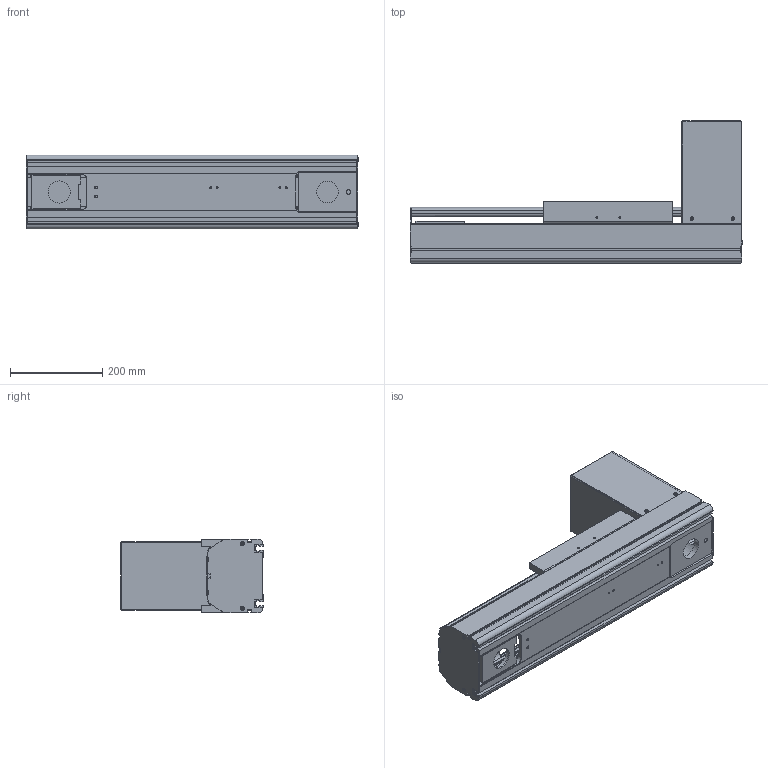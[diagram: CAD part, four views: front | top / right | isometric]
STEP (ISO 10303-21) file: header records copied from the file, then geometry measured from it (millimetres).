
FILE_DESCRIPTION((''),'2;1');
FILE_NAME('BE50G-BT-L19N-15_IGS_PRT','2017-06-18T',(' '),(''),'PRO/ENGINEER BY PARAMETRIC TECHNOLOGY CORPORATION, 2015030','PRO/ENGINEER BY PARAMETRIC TECHNOLOGY CORPORATION, 2015030','');
FILE_SCHEMA(('CONFIG_CONTROL_DESIGN'));
Length unit declared in the file: millimetre
Products named in the file (1): BE50G-BT-L19N-15_IGS_PRT
Bounding box: 720 x 309 x 160 mm (x, y, z)
Volume: 4622496.2 mm3; surface area: 1684731.1 mm2
Topology: 2 solids, 117 shells, 1739 faces, 4715 edges, 3092 vertices
Faces by surface type: cylinder 827, plane 763, cone 106, sphere 23, torus 20
Entity records: 56529 total; most frequent: CARTESIAN_POINT 11852, DIRECTION 9534, ORIENTED_EDGE 8878, EDGE_CURVE 4641, AXIS2_PLACEMENT_3D 3515, VERTEX_POINT 3092, VECTOR 2504, LINE 2504
